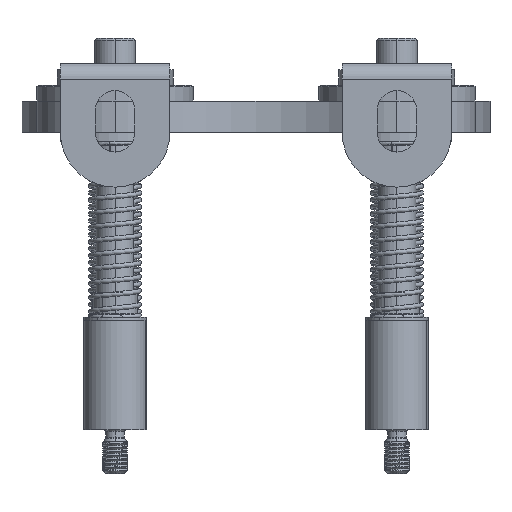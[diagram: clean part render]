
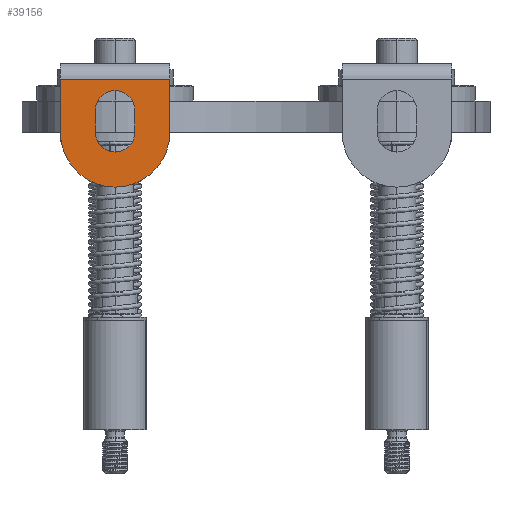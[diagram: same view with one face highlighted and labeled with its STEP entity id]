
A CAD part, left-side view. The second image highlights one B-rep face of the part: STEP entity #39156.
In plain terms, the highlighted planar face has unit normal (-1, 0, 0).
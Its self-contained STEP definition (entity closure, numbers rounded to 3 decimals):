
#90 = LINE ( 'NONE', #28942, #35373 ) ;
#151 = EDGE_LOOP ( 'NONE', ( #12008, #39167, #19165, #52307, #24896 ) ) ;
#279 = DIRECTION ( 'NONE',  ( 0., 0., -1. ) ) ;
#1304 = CARTESIAN_POINT ( 'NONE',  ( -181.5, 45., 0. ) ) ;
#1966 = DIRECTION ( 'NONE',  ( -1., 0., 0. ) ) ;
#2581 = EDGE_CURVE ( 'NONE', #51874, #37747, #20727, .T. ) ;
#2820 = DIRECTION ( 'NONE',  ( -1., 0., 0. ) ) ;
#3097 = LINE ( 'NONE', #19504, #48429 ) ;
#3635 = CARTESIAN_POINT ( 'NONE',  ( -181.5, 62.5, 17. ) ) ;
#4004 = EDGE_CURVE ( 'NONE', #37747, #38820, #40599, .T. ) ;
#5527 = VECTOR ( 'NONE', #22911, 1000. ) ;
#6766 = CARTESIAN_POINT ( 'NONE',  ( -181.5, 38.7, 7. ) ) ;
#8752 = EDGE_CURVE ( 'NONE', #35859, #51874, #3097, .T. ) ;
#11042 = DIRECTION ( 'NONE',  ( 0., 0., 1. ) ) ;
#11083 = VERTEX_POINT ( 'NONE', #27689 ) ;
#11452 = EDGE_CURVE ( 'NONE', #36853, #11083, #43085, .T. ) ;
#11477 = ORIENTED_EDGE ( 'NONE', *, *, #36904, .F. ) ;
#11831 = VERTEX_POINT ( 'NONE', #23091 ) ;
#11839 = DIRECTION ( 'NONE',  ( 0., 0., 1. ) ) ;
#12008 = ORIENTED_EDGE ( 'NONE', *, *, #8752, .T. ) ;
#13234 = DIRECTION ( 'NONE',  ( -1., 0., 0. ) ) ;
#13921 = EDGE_CURVE ( 'NONE', #38820, #46585, #35115, .T. ) ;
#15023 = PLANE ( 'NONE',  #27356 ) ;
#15821 = DIRECTION ( 'NONE',  ( 0., 0., 1. ) ) ;
#16320 = AXIS2_PLACEMENT_3D ( 'NONE', #21318, #1966, #29538 ) ;
#17035 = CARTESIAN_POINT ( 'NONE',  ( -181.5, 45., 0. ) ) ;
#17283 = DIRECTION ( 'NONE',  ( -1., 0., 0. ) ) ;
#18016 = DIRECTION ( 'NONE',  ( 0., 1., 0. ) ) ;
#18086 = ORIENTED_EDGE ( 'NONE', *, *, #24386, .F. ) ;
#18830 = CIRCLE ( 'NONE', #16320, 6.3 ) ;
#19165 = ORIENTED_EDGE ( 'NONE', *, *, #4004, .T. ) ;
#19504 = CARTESIAN_POINT ( 'NONE',  ( -181.5, 27.5, 20. ) ) ;
#19997 = AXIS2_PLACEMENT_3D ( 'NONE', #1304, #13234, #41095 ) ;
#20063 = FACE_BOUND ( 'NONE', #21811, .T. ) ;
#20336 = VERTEX_POINT ( 'NONE', #49026 ) ;
#20430 = CARTESIAN_POINT ( 'NONE',  ( -181.5, 62.5, 0. ) ) ;
#20727 = LINE ( 'NONE', #36913, #41564 ) ;
#21318 = CARTESIAN_POINT ( 'NONE',  ( -181.5, 45., 7. ) ) ;
#21811 = EDGE_LOOP ( 'NONE', ( #30961, #45329, #11477, #18086, #26839 ) ) ;
#22872 = VERTEX_POINT ( 'NONE', #51838 ) ;
#22911 = DIRECTION ( 'NONE',  ( 0., 0., 1. ) ) ;
#23040 = CARTESIAN_POINT ( 'NONE',  ( -181.5, 45., 0. ) ) ;
#23091 = CARTESIAN_POINT ( 'NONE',  ( -181.5, 45., 13.3 ) ) ;
#24027 = CARTESIAN_POINT ( 'NONE',  ( -181.5, 45., 0. ) ) ;
#24386 = EDGE_CURVE ( 'NONE', #20336, #22872, #90, .T. ) ;
#24738 = DIRECTION ( 'NONE',  ( 0., 0., 1. ) ) ;
#24896 = ORIENTED_EDGE ( 'NONE', *, *, #36706, .T. ) ;
#25024 = CARTESIAN_POINT ( 'NONE',  ( -181.5, 27.5, 0. ) ) ;
#25782 = AXIS2_PLACEMENT_3D ( 'NONE', #23040, #31271, #39230 ) ;
#26546 = CIRCLE ( 'NONE', #29097, 6.3 ) ;
#26839 = ORIENTED_EDGE ( 'NONE', *, *, #31040, .F. ) ;
#27356 = AXIS2_PLACEMENT_3D ( 'NONE', #24027, #31457, #15821 ) ;
#27689 = CARTESIAN_POINT ( 'NONE',  ( -181.5, 38.7, 7. ) ) ;
#28942 = CARTESIAN_POINT ( 'NONE',  ( -181.5, 51.3, 7. ) ) ;
#29097 = AXIS2_PLACEMENT_3D ( 'NONE', #51054, #2820, #11042 ) ;
#29538 = DIRECTION ( 'NONE',  ( 0., 0., 1. ) ) ;
#30961 = ORIENTED_EDGE ( 'NONE', *, *, #38181, .F. ) ;
#31040 = EDGE_CURVE ( 'NONE', #11831, #20336, #26546, .T. ) ;
#31271 = DIRECTION ( 'NONE',  ( -1., 0., 0. ) ) ;
#31457 = DIRECTION ( 'NONE',  ( -1., 0., 0. ) ) ;
#32496 = AXIS2_PLACEMENT_3D ( 'NONE', #17035, #17283, #24738 ) ;
#35115 = CIRCLE ( 'NONE', #25782, 17.5 ) ;
#35373 = VECTOR ( 'NONE', #40653, 1000. ) ;
#35859 = VERTEX_POINT ( 'NONE', #25024 ) ;
#35971 = FACE_OUTER_BOUND ( 'NONE', #151, .T. ) ;
#36096 = CIRCLE ( 'NONE', #19997, 17.5 ) ;
#36706 = EDGE_CURVE ( 'NONE', #46585, #35859, #36096, .T. ) ;
#36853 = VERTEX_POINT ( 'NONE', #37713 ) ;
#36904 = EDGE_CURVE ( 'NONE', #22872, #36853, #49381, .T. ) ;
#36913 = CARTESIAN_POINT ( 'NONE',  ( -181.5, 45., 17. ) ) ;
#37713 = CARTESIAN_POINT ( 'NONE',  ( -181.5, 38.7, 0. ) ) ;
#37747 = VERTEX_POINT ( 'NONE', #3635 ) ;
#38181 = EDGE_CURVE ( 'NONE', #11083, #11831, #18830, .T. ) ;
#38820 = VERTEX_POINT ( 'NONE', #39490 ) ;
#39156 = ADVANCED_FACE ( 'NONE', ( #20063, #35971 ), #15023, .T. ) ;
#39167 = ORIENTED_EDGE ( 'NONE', *, *, #2581, .T. ) ;
#39230 = DIRECTION ( 'NONE',  ( 0., 0., 1. ) ) ;
#39490 = CARTESIAN_POINT ( 'NONE',  ( -181.5, 62.5, 0. ) ) ;
#40599 = LINE ( 'NONE', #20430, #52228 ) ;
#40653 = DIRECTION ( 'NONE',  ( 0., 0., -1. ) ) ;
#41095 = DIRECTION ( 'NONE',  ( 0., 0., 1. ) ) ;
#41564 = VECTOR ( 'NONE', #18016, 1000. ) ;
#43085 = LINE ( 'NONE', #6766, #5527 ) ;
#44633 = CARTESIAN_POINT ( 'NONE',  ( -181.5, 27.5, 17. ) ) ;
#45329 = ORIENTED_EDGE ( 'NONE', *, *, #11452, .F. ) ;
#46585 = VERTEX_POINT ( 'NONE', #50971 ) ;
#48429 = VECTOR ( 'NONE', #11839, 1000. ) ;
#49026 = CARTESIAN_POINT ( 'NONE',  ( -181.5, 51.3, 7. ) ) ;
#49381 = CIRCLE ( 'NONE', #32496, 6.3 ) ;
#50971 = CARTESIAN_POINT ( 'NONE',  ( -181.5, 45., -17.5 ) ) ;
#51054 = CARTESIAN_POINT ( 'NONE',  ( -181.5, 45., 7. ) ) ;
#51838 = CARTESIAN_POINT ( 'NONE',  ( -181.5, 51.3, 0. ) ) ;
#51874 = VERTEX_POINT ( 'NONE', #44633 ) ;
#52228 = VECTOR ( 'NONE', #279, 1000. ) ;
#52307 = ORIENTED_EDGE ( 'NONE', *, *, #13921, .T. ) ;
